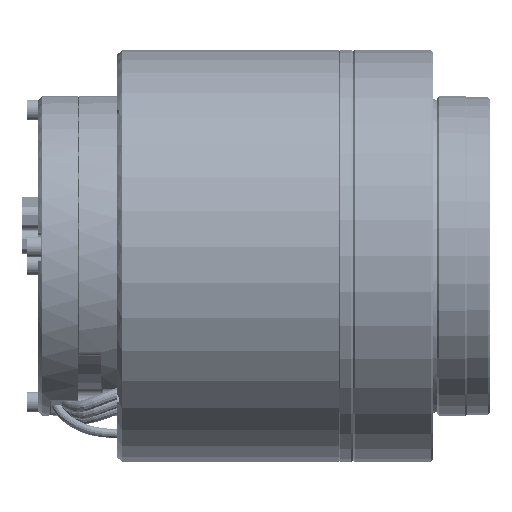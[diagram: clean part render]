
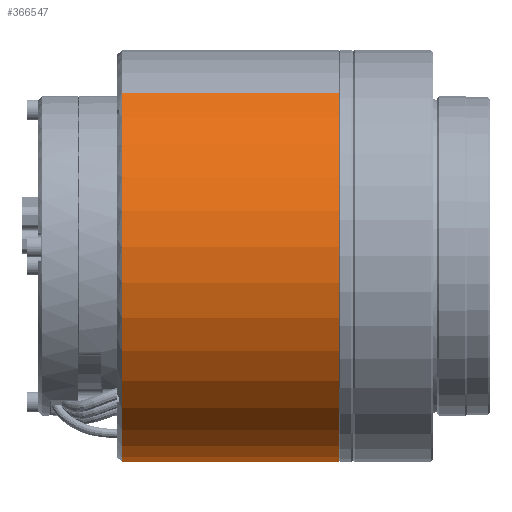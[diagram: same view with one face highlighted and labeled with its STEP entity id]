
A CAD part, front view. The second image highlights one B-rep face of the part: STEP entity #366547.
In plain terms, the highlighted cylindrical face has radius 45 mm (diameter 90 mm), a partial arc.
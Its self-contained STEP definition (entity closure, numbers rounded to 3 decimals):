
#3026 = AXIS2_PLACEMENT_3D ( 'NONE', #98404, #8668, #272132 ) ;
#4264 = CIRCLE ( 'NONE', #222347, 45. ) ;
#5435 = ORIENTED_EDGE ( 'NONE', *, *, #354882, .F. ) ;
#8668 = DIRECTION ( 'NONE',  ( -1., 0., 0. ) ) ;
#16121 = ORIENTED_EDGE ( 'NONE', *, *, #154814, .T. ) ;
#19934 = AXIS2_PLACEMENT_3D ( 'NONE', #296143, #182933, #301934 ) ;
#21606 = CARTESIAN_POINT ( 'NONE',  ( -20.5, -27.394, 35.701 ) ) ;
#44602 = LINE ( 'NONE', #190926, #176054 ) ;
#50028 = CARTESIAN_POINT ( 'NONE',  ( -68., 27.394, -35.701 ) ) ;
#62697 = EDGE_CURVE ( 'NONE', #232055, #140855, #4264, .T. ) ;
#70083 = DIRECTION ( 'NONE',  ( -1., 0., 0. ) ) ;
#83361 = CARTESIAN_POINT ( 'NONE',  ( -68., -27.394, 35.701 ) ) ;
#85635 = VERTEX_POINT ( 'NONE', #50028 ) ;
#95849 = ORIENTED_EDGE ( 'NONE', *, *, #62697, .F. ) ;
#96161 = EDGE_LOOP ( 'NONE', ( #95849, #16121, #278113, #5435 ) ) ;
#98404 = CARTESIAN_POINT ( 'NONE',  ( -20.5, 0., 0. ) ) ;
#105626 = VECTOR ( 'NONE', #70083, 1000. ) ;
#120909 = DIRECTION ( 'NONE',  ( 1., 0., 0. ) ) ;
#140855 = VERTEX_POINT ( 'NONE', #222870 ) ;
#154814 = EDGE_CURVE ( 'NONE', #232055, #359292, #218374, .T. ) ;
#169471 = CIRCLE ( 'NONE', #19934, 45. ) ;
#176054 = VECTOR ( 'NONE', #192886, 1000. ) ;
#182933 = DIRECTION ( 'NONE',  ( 1., 0., 0. ) ) ;
#185268 = DIRECTION ( 'NONE',  ( 0., -0.609, 0.793 ) ) ;
#190926 = CARTESIAN_POINT ( 'NONE',  ( -20.5, 27.394, -35.701 ) ) ;
#192886 = DIRECTION ( 'NONE',  ( -1., 0., 0. ) ) ;
#212608 = CARTESIAN_POINT ( 'NONE',  ( -20.5, -27.394, 35.701 ) ) ;
#218374 = LINE ( 'NONE', #212608, #105626 ) ;
#222347 = AXIS2_PLACEMENT_3D ( 'NONE', #243829, #120909, #185268 ) ;
#222870 = CARTESIAN_POINT ( 'NONE',  ( -20.5, 27.394, -35.701 ) ) ;
#232055 = VERTEX_POINT ( 'NONE', #21606 ) ;
#243829 = CARTESIAN_POINT ( 'NONE',  ( -20.5, 0., 0. ) ) ;
#246699 = CYLINDRICAL_SURFACE ( 'NONE', #3026, 45. ) ;
#269492 = EDGE_CURVE ( 'NONE', #359292, #85635, #169471, .T. ) ;
#272132 = DIRECTION ( 'NONE',  ( 0., 0.609, -0.793 ) ) ;
#278113 = ORIENTED_EDGE ( 'NONE', *, *, #269492, .T. ) ;
#296143 = CARTESIAN_POINT ( 'NONE',  ( -68., 0., 0. ) ) ;
#301934 = DIRECTION ( 'NONE',  ( 0., 0.609, -0.793 ) ) ;
#354882 = EDGE_CURVE ( 'NONE', #140855, #85635, #44602, .T. ) ;
#359292 = VERTEX_POINT ( 'NONE', #83361 ) ;
#366547 = ADVANCED_FACE ( 'NONE', ( #367623 ), #246699, .T. ) ;
#367623 = FACE_OUTER_BOUND ( 'NONE', #96161, .T. ) ;
